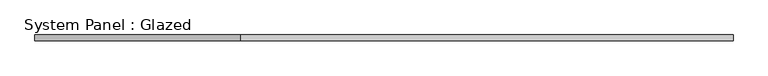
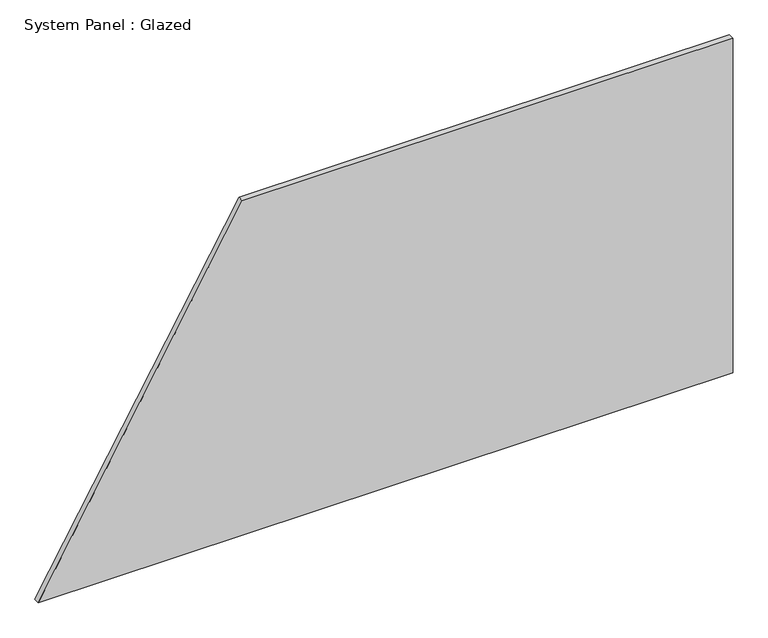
"""IFC4 building model written with IfcOpenShell, lengths in millimetres: plate geometry, System Panel : Glazed."""

from ifc_helpers import new_model, si_unit, frame, origin, place, context, project, spatial, polyline, outline, extrude, source, transform, mapped, element, save


def system_panel_glazed_83acb073(model_context):
    return source(origin(), model_context, "Body", "SweptSolid", [
        extrude(outline(polyline([(0.0, -1497.470227), (0.0, 1497.470227), (1524.0, 1497.470227), (1524.0, -617.5884168), (0.0, -1497.470227)])), frame((0.0, 19.05, 0.0), z_axis=(0.0, 1.0, 0.0), x_axis=(0.0, 0.0, 1.0)), (0.0, 0.0, 1.0), 25.4),
    ])


if __name__ == "__main__":
    model = new_model("IFC4")
    model_context = context("Model", 3, world=origin())
    ifc_project = project(units=[si_unit("LENGTHUNIT", "METRE", prefix="MILLI")], contexts=[model_context])
    site = spatial("IfcSite", under=ifc_project)
    building = spatial("IfcBuilding", under=site)
    placement = place(None, origin())
    system_panel_glazed_shape = system_panel_glazed_83acb073(model_context)
    element("IfcPlate", 1, ObjectType="System Panel : Glazed", at=placement, inside=building, context=model_context, shape_type="MappedRepresentation", body=[
        mapped(system_panel_glazed_shape, transform((0.0, 0.0, 0.0), x_axis=(1.0, 0.0, 0.0), y_axis=(0.0, 1.0, 0.0), z_axis=(0.0, 0.0, 1.0))),
    ])
    save(model, "model.ifc")
